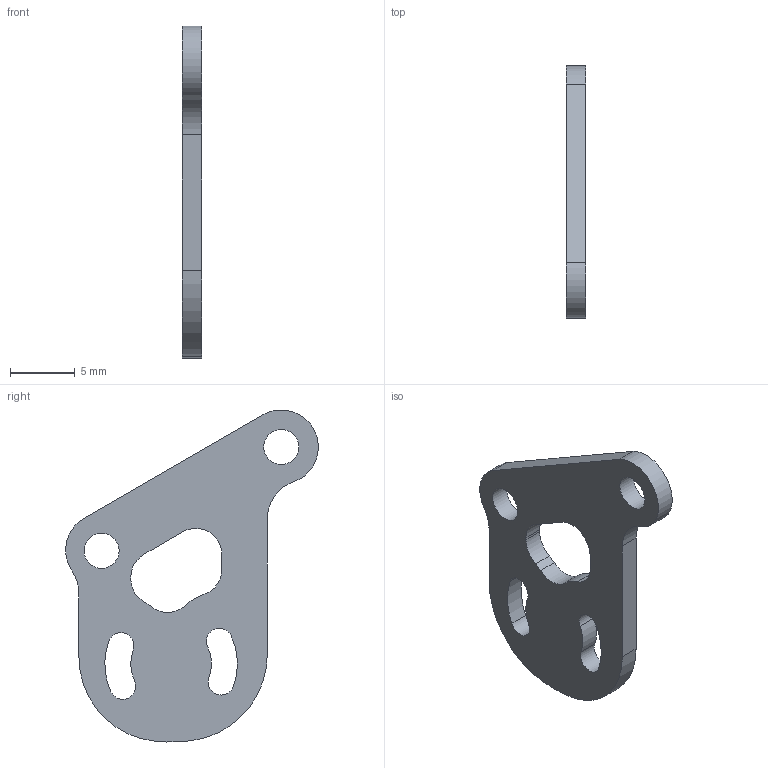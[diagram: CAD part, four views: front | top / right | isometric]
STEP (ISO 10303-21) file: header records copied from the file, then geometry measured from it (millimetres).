
FILE_DESCRIPTION(/* description */ ('','CAx-IF Rec.Pracs.---Representation and Presentation of Product Manufacturing Information (PMI)---4.0---2014-10-13'),/* implementation_level */ '2;1');
FILE_NAME(/* name */ 'QAV-S2 Johnny - O4 Mount v3.step',/* time_stamp */ '2025-01-09T13:58:07-05:00',/* author */ (''),/* organization */ (''),/* preprocessor_version */ 'ST-DEVELOPER v20',/* originating_system */ 'Autodesk Translation Framework v13.20.0.188',/* authorisation */ '');
FILE_SCHEMA (('AP242_MANAGED_MODEL_BASED_3D_ENGINEERING_MIM_LF { 1 0 10303 442 1 1 4 }'));
Length unit declared in the file: millimetre
Products named in the file (1): QAV-S2 Johnny - O4 Mount
Bounding box: 1.5 x 19.44 x 25.56 mm (x, y, z)
Volume: 372.8 mm3; surface area: 701.6 mm2
Topology: 1 solids, 1 shells, 32 faces, 90 edges, 60 vertices
Faces by surface type: cylinder 24, plane 8
Full cylindrical faces by diameter (mm): 2.7 x2
Entity records: 1115 total; most frequent: DIRECTION 204, CARTESIAN_POINT 183, ORIENTED_EDGE 180, EDGE_CURVE 90, AXIS2_PLACEMENT_3D 81, VERTEX_POINT 60, CIRCLE 48, EDGE_LOOP 42
